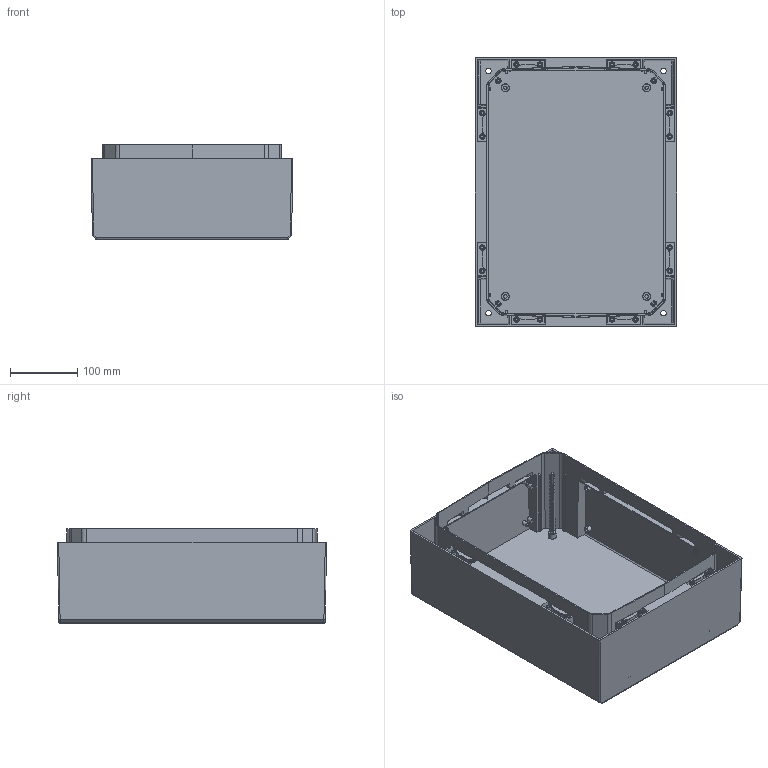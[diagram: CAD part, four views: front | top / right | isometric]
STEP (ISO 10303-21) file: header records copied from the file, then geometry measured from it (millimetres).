
FILE_DESCRIPTION (( 'STEP AP214' ), '1' );
FILE_NAME ('BXPFAG400300150-P01', '2014-11-07T11:14:51', ( '' ), ( '' ), 'SwSTEP 2.0', 'SolidWorks 2014', '' );
FILE_SCHEMA (( 'AUTOMOTIVE_DESIGN' ));
Length unit declared in the file: millimetre
Products named in the file (1): BXPFAG400300150-P01
Bounding box: 300 x 400 x 140 mm (x, y, z)
Volume: 1280098.2 mm3; surface area: 779439.3 mm2
Topology: 1 solids, 1 shells, 648 faces, 1670 edges, 1096 vertices
Faces by surface type: plane 354, cone 144, cylinder 118, bspline 32
Entity records: 20268 total; most frequent: CARTESIAN_POINT 4851, ORIENTED_EDGE 3324, DIRECTION 3036, EDGE_CURVE 1662, VERTEX_POINT 1096, VECTOR 1034, LINE 1034, AXIS2_PLACEMENT_3D 1001
